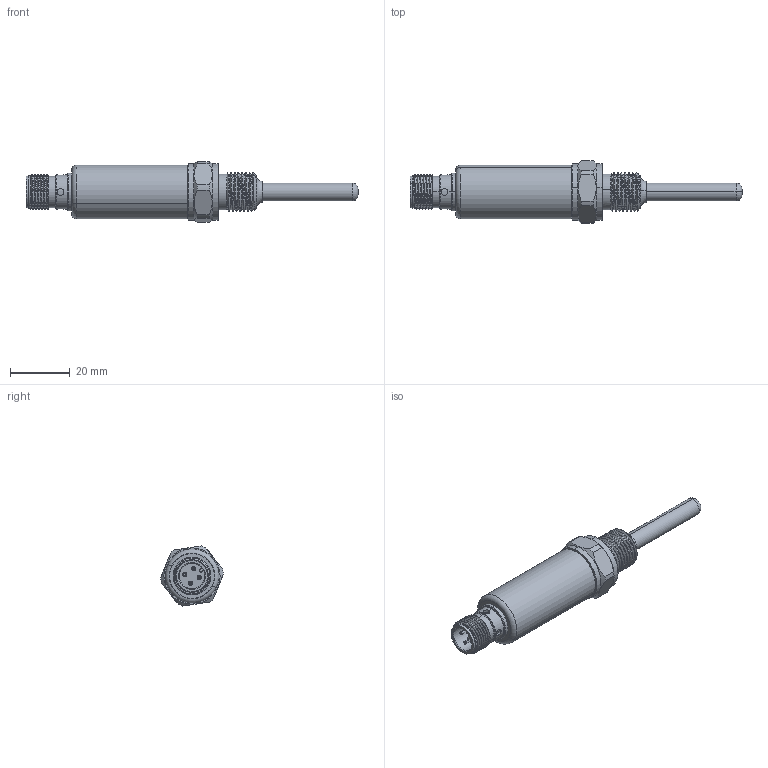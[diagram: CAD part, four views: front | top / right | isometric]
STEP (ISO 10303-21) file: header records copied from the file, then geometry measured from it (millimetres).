
FILE_DESCRIPTION (( 'STEP AP214' ), '1' );
FILE_NAME ('BTA-G1-4.STEP', '2026-03-03T09:12:55', ( '' ), ( '' ), 'SwSTEP 2.0', 'SolidWorks 2025', '' );
FILE_SCHEMA (( 'AUTOMOTIVE_DESIGN' ));
Length unit declared in the file: millimetre
Products named in the file (8): 温度探头接头; BTA-G1-4; 壳体; 探头管; 航插座壳; 航插胶壳; 线路板; 航插针
Assembly tree (10 placements, depth 2):
  BTA-G1-4
    航插座壳
    壳体
    温度探头接头
    探头管
    航插胶壳
    航插针  x4
    线路板
Bounding box: 110.9 x 20.96 x 20.1 mm (x, y, z)
Volume: 6408.9 mm3; surface area: 12690.8 mm2
Topology: 10 solids, 10 shells, 257 faces, 593 edges, 376 vertices
Faces by surface type: cylinder 130, plane 74, torus 24, cone 21, bspline 8
Entity records: 10325 total; most frequent: CARTESIAN_POINT 5042, DIRECTION 1062, ORIENTED_EDGE 1054, EDGE_CURVE 527, AXIS2_PLACEMENT_3D 429, VERTEX_POINT 334, EDGE_LOOP 257, FACE_OUTER_BOUND 221
